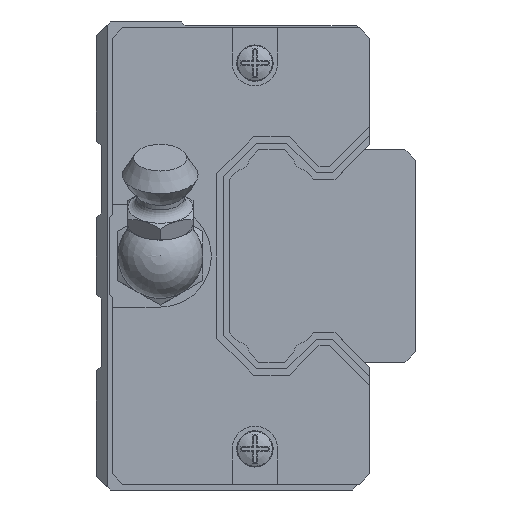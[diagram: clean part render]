
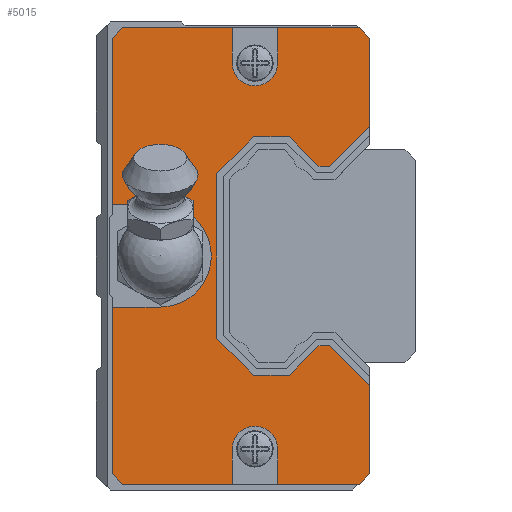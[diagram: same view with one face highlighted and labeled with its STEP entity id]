
A CAD part, left-side view. The second image highlights one B-rep face of the part: STEP entity #5015.
In plain terms, the highlighted planar face has unit normal (-1, 0, 0) as drawn and (1, 0, 0) by its records, which use the part's own axes.
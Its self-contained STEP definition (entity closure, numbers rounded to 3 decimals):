
#398=CIRCLE('',#5606,2.134);
#399=CIRCLE('',#5607,4.8);
#400=CIRCLE('',#5608,2.134);
#614=FACE_OUTER_BOUND('',#981,.T.);
#981=EDGE_LOOP('',(#4116,#4117,#4118,#4119,#4120,#4121,#4122,#4123,#4124,
#4125,#4126,#4127,#4128,#4129,#4130,#4131,#4132,#4133,#4134,#4135,#4136,
#4137,#4138,#4139,#4140,#4141,#4142,#4143,#4144,#4145,#4146,#4147));
#1456=LINE('',#8171,#1959);
#1464=LINE('',#8184,#1967);
#1466=LINE('',#8188,#1969);
#1467=LINE('',#8190,#1970);
#1468=LINE('',#8192,#1971);
#1469=LINE('',#8194,#1972);
#1470=LINE('',#8196,#1973);
#1471=LINE('',#8198,#1974);
#1472=LINE('',#8200,#1975);
#1473=LINE('',#8202,#1976);
#1474=LINE('',#8204,#1977);
#1475=LINE('',#8206,#1978);
#1476=LINE('',#8207,#1979);
#1477=LINE('',#8209,#1980);
#1478=LINE('',#8211,#1981);
#1479=LINE('',#8213,#1982);
#1480=LINE('',#8217,#1983);
#1481=LINE('',#8219,#1984);
#1482=LINE('',#8221,#1985);
#1483=LINE('',#8223,#1986);
#1484=LINE('',#8225,#1987);
#1485=LINE('',#8229,#1988);
#1486=LINE('',#8231,#1989);
#1487=LINE('',#8233,#1990);
#1488=LINE('',#8235,#1991);
#1489=LINE('',#8237,#1992);
#1490=LINE('',#8241,#1993);
#1491=LINE('',#8243,#1994);
#1492=LINE('',#8244,#1995);
#1959=VECTOR('',#6690,1000.);
#1967=VECTOR('',#6700,1000.);
#1969=VECTOR('',#6704,1000.);
#1970=VECTOR('',#6705,1000.);
#1971=VECTOR('',#6706,1000.);
#1972=VECTOR('',#6707,1000.);
#1973=VECTOR('',#6708,1000.);
#1974=VECTOR('',#6709,1000.);
#1975=VECTOR('',#6710,1000.);
#1976=VECTOR('',#6711,1000.);
#1977=VECTOR('',#6712,1000.);
#1978=VECTOR('',#6713,1000.);
#1979=VECTOR('',#6714,1000.);
#1980=VECTOR('',#6715,1000.);
#1981=VECTOR('',#6716,1000.);
#1982=VECTOR('',#6717,1000.);
#1983=VECTOR('',#6720,1000.);
#1984=VECTOR('',#6721,1000.);
#1985=VECTOR('',#6722,1000.);
#1986=VECTOR('',#6723,1000.);
#1987=VECTOR('',#6724,1000.);
#1988=VECTOR('',#6727,1000.);
#1989=VECTOR('',#6728,1000.);
#1990=VECTOR('',#6729,1000.);
#1991=VECTOR('',#6730,1000.);
#1992=VECTOR('',#6731,1000.);
#1993=VECTOR('',#6734,1000.);
#1994=VECTOR('',#6735,1000.);
#1995=VECTOR('',#6736,1000.);
#2464=VERTEX_POINT('',#8168);
#2465=VERTEX_POINT('',#8170);
#2468=VERTEX_POINT('',#8181);
#2469=VERTEX_POINT('',#8183);
#2470=VERTEX_POINT('',#8187);
#2471=VERTEX_POINT('',#8189);
#2472=VERTEX_POINT('',#8191);
#2473=VERTEX_POINT('',#8193);
#2474=VERTEX_POINT('',#8195);
#2475=VERTEX_POINT('',#8197);
#2476=VERTEX_POINT('',#8199);
#2477=VERTEX_POINT('',#8201);
#2478=VERTEX_POINT('',#8203);
#2479=VERTEX_POINT('',#8205);
#2480=VERTEX_POINT('',#8208);
#2481=VERTEX_POINT('',#8210);
#2482=VERTEX_POINT('',#8212);
#2483=VERTEX_POINT('',#8214);
#2484=VERTEX_POINT('',#8216);
#2485=VERTEX_POINT('',#8218);
#2486=VERTEX_POINT('',#8220);
#2487=VERTEX_POINT('',#8222);
#2488=VERTEX_POINT('',#8224);
#2489=VERTEX_POINT('',#8226);
#2490=VERTEX_POINT('',#8228);
#2491=VERTEX_POINT('',#8230);
#2492=VERTEX_POINT('',#8232);
#2493=VERTEX_POINT('',#8234);
#2494=VERTEX_POINT('',#8236);
#2495=VERTEX_POINT('',#8238);
#2496=VERTEX_POINT('',#8240);
#2497=VERTEX_POINT('',#8242);
#3044=EDGE_CURVE('',#2465,#2464,#1456,.T.);
#3052=EDGE_CURVE('',#2469,#2468,#1464,.T.);
#3054=EDGE_CURVE('',#2470,#2464,#1466,.T.);
#3055=EDGE_CURVE('',#2471,#2470,#1467,.T.);
#3056=EDGE_CURVE('',#2472,#2471,#1468,.T.);
#3057=EDGE_CURVE('',#2473,#2472,#1469,.T.);
#3058=EDGE_CURVE('',#2474,#2473,#1470,.T.);
#3059=EDGE_CURVE('',#2475,#2474,#1471,.T.);
#3060=EDGE_CURVE('',#2476,#2475,#1472,.T.);
#3061=EDGE_CURVE('',#2477,#2476,#1473,.T.);
#3062=EDGE_CURVE('',#2478,#2477,#1474,.T.);
#3063=EDGE_CURVE('',#2479,#2478,#1475,.T.);
#3064=EDGE_CURVE('',#2469,#2479,#1476,.T.);
#3065=EDGE_CURVE('',#2468,#2480,#1477,.T.);
#3066=EDGE_CURVE('',#2480,#2481,#1478,.T.);
#3067=EDGE_CURVE('',#2482,#2481,#1479,.T.);
#3068=EDGE_CURVE('',#2483,#2482,#398,.T.);
#3069=EDGE_CURVE('',#2484,#2483,#1480,.T.);
#3070=EDGE_CURVE('',#2484,#2485,#1481,.T.);
#3071=EDGE_CURVE('',#2485,#2486,#1482,.T.);
#3072=EDGE_CURVE('',#2486,#2487,#1483,.T.);
#3073=EDGE_CURVE('',#2488,#2487,#1484,.T.);
#3074=EDGE_CURVE('',#2489,#2488,#399,.T.);
#3075=EDGE_CURVE('',#2490,#2489,#1485,.T.);
#3076=EDGE_CURVE('',#2490,#2491,#1486,.T.);
#3077=EDGE_CURVE('',#2491,#2492,#1487,.T.);
#3078=EDGE_CURVE('',#2492,#2493,#1488,.T.);
#3079=EDGE_CURVE('',#2494,#2493,#1489,.T.);
#3080=EDGE_CURVE('',#2495,#2494,#400,.T.);
#3081=EDGE_CURVE('',#2496,#2495,#1490,.T.);
#3082=EDGE_CURVE('',#2496,#2497,#1491,.T.);
#3083=EDGE_CURVE('',#2497,#2465,#1492,.T.);
#4116=ORIENTED_EDGE('',*,*,#3054,.F.);
#4117=ORIENTED_EDGE('',*,*,#3055,.F.);
#4118=ORIENTED_EDGE('',*,*,#3056,.F.);
#4119=ORIENTED_EDGE('',*,*,#3057,.F.);
#4120=ORIENTED_EDGE('',*,*,#3058,.F.);
#4121=ORIENTED_EDGE('',*,*,#3059,.F.);
#4122=ORIENTED_EDGE('',*,*,#3060,.F.);
#4123=ORIENTED_EDGE('',*,*,#3061,.F.);
#4124=ORIENTED_EDGE('',*,*,#3062,.F.);
#4125=ORIENTED_EDGE('',*,*,#3063,.F.);
#4126=ORIENTED_EDGE('',*,*,#3064,.F.);
#4127=ORIENTED_EDGE('',*,*,#3052,.T.);
#4128=ORIENTED_EDGE('',*,*,#3065,.T.);
#4129=ORIENTED_EDGE('',*,*,#3066,.T.);
#4130=ORIENTED_EDGE('',*,*,#3067,.F.);
#4131=ORIENTED_EDGE('',*,*,#3068,.F.);
#4132=ORIENTED_EDGE('',*,*,#3069,.F.);
#4133=ORIENTED_EDGE('',*,*,#3070,.T.);
#4134=ORIENTED_EDGE('',*,*,#3071,.T.);
#4135=ORIENTED_EDGE('',*,*,#3072,.T.);
#4136=ORIENTED_EDGE('',*,*,#3073,.F.);
#4137=ORIENTED_EDGE('',*,*,#3074,.F.);
#4138=ORIENTED_EDGE('',*,*,#3075,.F.);
#4139=ORIENTED_EDGE('',*,*,#3076,.T.);
#4140=ORIENTED_EDGE('',*,*,#3077,.T.);
#4141=ORIENTED_EDGE('',*,*,#3078,.T.);
#4142=ORIENTED_EDGE('',*,*,#3079,.F.);
#4143=ORIENTED_EDGE('',*,*,#3080,.F.);
#4144=ORIENTED_EDGE('',*,*,#3081,.F.);
#4145=ORIENTED_EDGE('',*,*,#3082,.T.);
#4146=ORIENTED_EDGE('',*,*,#3083,.T.);
#4147=ORIENTED_EDGE('',*,*,#3044,.T.);
#4756=PLANE('',#5605);
#5015=ADVANCED_FACE('',(#614),#4756,.T.);
#5605=AXIS2_PLACEMENT_3D('',#8186,#6702,#6703);
#5606=AXIS2_PLACEMENT_3D('',#8215,#6718,#6719);
#5607=AXIS2_PLACEMENT_3D('',#8227,#6725,#6726);
#5608=AXIS2_PLACEMENT_3D('',#8239,#6732,#6733);
#6690=DIRECTION('',(0.,0.,-1.));
#6700=DIRECTION('',(0.,0.,-1.));
#6702=DIRECTION('center_axis',(1.,0.,0.));
#6703=DIRECTION('ref_axis',(0.,0.,-1.));
#6704=DIRECTION('',(0.,-0.707,0.707));
#6705=DIRECTION('',(0.,-1.,0.));
#6706=DIRECTION('',(0.,-0.707,-0.707));
#6707=DIRECTION('',(0.,-1.,0.));
#6708=DIRECTION('',(0.,-0.707,0.707));
#6709=DIRECTION('',(0.,0.,1.));
#6710=DIRECTION('',(0.,0.707,0.707));
#6711=DIRECTION('',(0.,1.,0.));
#6712=DIRECTION('',(0.,0.707,-0.707));
#6713=DIRECTION('',(0.,1.,0.));
#6714=DIRECTION('',(0.,0.707,0.707));
#6715=DIRECTION('',(0.,0.707,-0.707));
#6716=DIRECTION('',(0.,1.,0.));
#6717=DIRECTION('',(0.,0.,-1.));
#6718=DIRECTION('center_axis',(1.,0.,0.));
#6719=DIRECTION('ref_axis',(0.,0.,-1.));
#6720=DIRECTION('',(0.,0.,1.));
#6721=DIRECTION('',(0.,1.,0.));
#6722=DIRECTION('',(0.,0.707,0.707));
#6723=DIRECTION('',(0.,0.,1.));
#6724=DIRECTION('',(0.,1.,0.));
#6725=DIRECTION('center_axis',(1.,0.,0.));
#6726=DIRECTION('ref_axis',(0.,0.,-1.));
#6727=DIRECTION('',(0.,-1.,0.));
#6728=DIRECTION('',(0.,0.,1.));
#6729=DIRECTION('',(0.,-0.707,0.707));
#6730=DIRECTION('',(0.,-1.,0.));
#6731=DIRECTION('',(0.,0.,1.));
#6732=DIRECTION('center_axis',(1.,0.,0.));
#6733=DIRECTION('ref_axis',(0.,0.,-1.));
#6734=DIRECTION('',(0.,0.,-1.));
#6735=DIRECTION('',(0.,-1.,0.));
#6736=DIRECTION('',(0.,-0.707,-0.707));
#8168=CARTESIAN_POINT('',(2.,4.3,12.197));
#8170=CARTESIAN_POINT('',(2.,4.3,20.485));
#8171=CARTESIAN_POINT('',(2.,4.3,20.485));
#8181=CARTESIAN_POINT('',(2.,4.3,-20.485));
#8183=CARTESIAN_POINT('',(2.,4.3,-12.197));
#8184=CARTESIAN_POINT('',(2.,4.3,20.485));
#8186=CARTESIAN_POINT('Origin',(2.,0.,0.));
#8187=CARTESIAN_POINT('',(2.,8.069,8.428));
#8188=CARTESIAN_POINT('',(2.,8.069,8.428));
#8189=CARTESIAN_POINT('',(2.,9.083,8.428));
#8190=CARTESIAN_POINT('',(2.,9.083,8.428));
#8191=CARTESIAN_POINT('',(2.,11.855,11.2));
#8192=CARTESIAN_POINT('',(2.,11.855,11.2));
#8193=CARTESIAN_POINT('',(2.,15.225,11.2));
#8194=CARTESIAN_POINT('',(2.,15.225,11.2));
#8195=CARTESIAN_POINT('',(2.,18.7,7.725));
#8196=CARTESIAN_POINT('',(2.,18.7,7.725));
#8197=CARTESIAN_POINT('',(2.,18.7,-7.725));
#8198=CARTESIAN_POINT('',(2.,18.7,-7.725));
#8199=CARTESIAN_POINT('',(2.,15.225,-11.2));
#8200=CARTESIAN_POINT('',(2.,15.225,-11.2));
#8201=CARTESIAN_POINT('',(2.,11.855,-11.2));
#8202=CARTESIAN_POINT('',(2.,11.855,-11.2));
#8203=CARTESIAN_POINT('',(2.,9.083,-8.428));
#8204=CARTESIAN_POINT('',(2.,9.083,-8.428));
#8205=CARTESIAN_POINT('',(2.,8.069,-8.428));
#8206=CARTESIAN_POINT('',(2.,8.069,-8.428));
#8207=CARTESIAN_POINT('',(2.,4.3,-12.197));
#8208=CARTESIAN_POINT('',(2.,5.265,-21.45));
#8209=CARTESIAN_POINT('',(2.,4.3,-20.485));
#8210=CARTESIAN_POINT('',(2.,12.966,-21.45));
#8211=CARTESIAN_POINT('',(2.,5.265,-21.45));
#8212=CARTESIAN_POINT('',(2.,12.966,-18.139));
#8213=CARTESIAN_POINT('',(2.,12.966,-18.139));
#8214=CARTESIAN_POINT('',(2.,17.234,-18.139));
#8215=CARTESIAN_POINT('Origin',(2.,15.1,-18.139));
#8216=CARTESIAN_POINT('',(2.,17.234,-21.45));
#8217=CARTESIAN_POINT('',(2.,17.234,-24.45));
#8218=CARTESIAN_POINT('',(2.,27.535,-21.45));
#8219=CARTESIAN_POINT('',(2.,5.265,-21.45));
#8220=CARTESIAN_POINT('',(2.,28.5,-20.485));
#8221=CARTESIAN_POINT('',(2.,27.535,-21.45));
#8222=CARTESIAN_POINT('',(2.,28.5,-4.8));
#8223=CARTESIAN_POINT('',(2.,28.5,-20.485));
#8224=CARTESIAN_POINT('',(2.,24.,-4.8));
#8225=CARTESIAN_POINT('',(2.,24.,-4.8));
#8226=CARTESIAN_POINT('',(2.,24.,4.8));
#8227=CARTESIAN_POINT('Origin',(2.,24.,0.));
#8228=CARTESIAN_POINT('',(2.,28.5,4.8));
#8229=CARTESIAN_POINT('',(2.,28.5,4.8));
#8230=CARTESIAN_POINT('',(2.,28.5,20.485));
#8231=CARTESIAN_POINT('',(2.,28.5,-20.485));
#8232=CARTESIAN_POINT('',(2.,27.535,21.45));
#8233=CARTESIAN_POINT('',(2.,28.5,20.485));
#8234=CARTESIAN_POINT('',(2.,17.234,21.45));
#8235=CARTESIAN_POINT('',(2.,27.535,21.45));
#8236=CARTESIAN_POINT('',(2.,17.234,18.139));
#8237=CARTESIAN_POINT('',(2.,17.234,18.139));
#8238=CARTESIAN_POINT('',(2.,12.966,18.139));
#8239=CARTESIAN_POINT('Origin',(2.,15.1,18.139));
#8240=CARTESIAN_POINT('',(2.,12.966,21.45));
#8241=CARTESIAN_POINT('',(2.,12.966,21.45));
#8242=CARTESIAN_POINT('',(2.,5.265,21.45));
#8243=CARTESIAN_POINT('',(2.,27.535,21.45));
#8244=CARTESIAN_POINT('',(2.,5.265,21.45));
